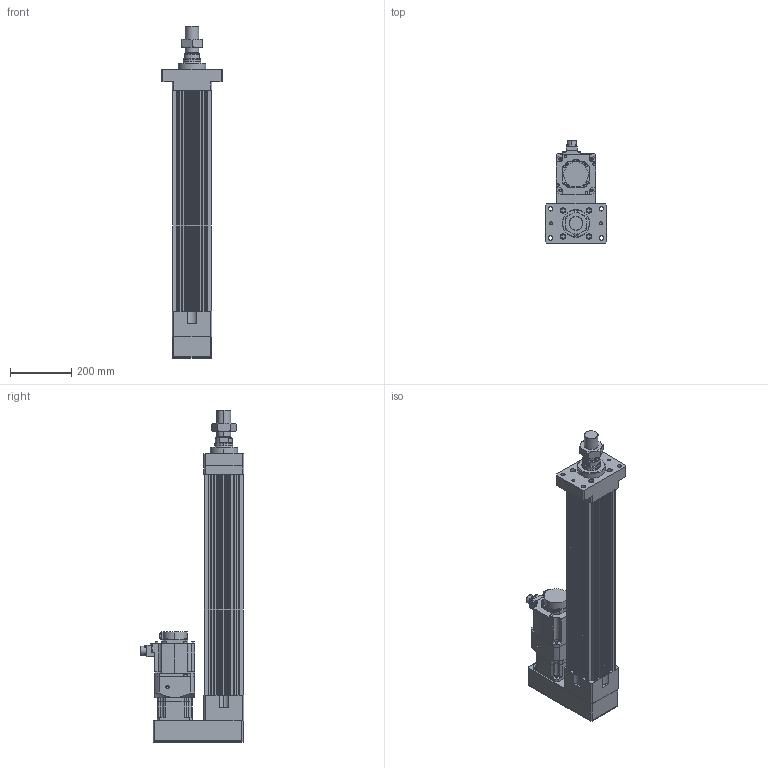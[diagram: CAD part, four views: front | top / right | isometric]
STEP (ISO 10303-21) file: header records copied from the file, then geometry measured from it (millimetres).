
FILE_DESCRIPTION (( 'STEP AP203' ), '1' );
FILE_NAME ('HES130NS(FS)(HS)-P500-W015G00-M-FMA.STEP', '2023-01-29T04:51:25', ( 'tms' ), ( '' ), 'SwSTEP 2.0', 'SolidWorks 2013', '' );
FILE_SCHEMA (( 'CONFIG_CONTROL_DESIGN' ));
Length unit declared in the file: millimetre
Products named in the file (8): P0401400706; AB115-003[HG-SR152]; HES130 ROD M ST500; AB1151; HES130-P500-G120-FMA; HES130NS(FS)(HS)-P500-W015G00-M-FMA; HG-SR152; M45X1.5P
Assembly tree (7 placements, depth 3):
  HES130NS(FS)(HS)-P500-W015G00-M-FMA
    HES130-P500-G120-FMA
    HES130 ROD M ST500
    M45X1.5P
    AB115-003[HG-SR152]
      AB1151
      P0401400706
    HG-SR152
Bounding box: 200 x 337.49 x 1082 mm (x, y, z)
Volume: 12444620.6 mm3; surface area: 1490613.3 mm2
Topology: 4 solids, 11 shells, 1082 faces, 2768 edges, 1799 vertices
Faces by surface type: cylinder 513, plane 489, cone 68, bspline 8, torus 4
Entity records: 34626 total; most frequent: CARTESIAN_POINT 6632, DIRECTION 5993, ORIENTED_EDGE 5484, EDGE_CURVE 2752, AXIS2_PLACEMENT_3D 2228, VERTEX_POINT 1799, LINE 1537, VECTOR 1537
